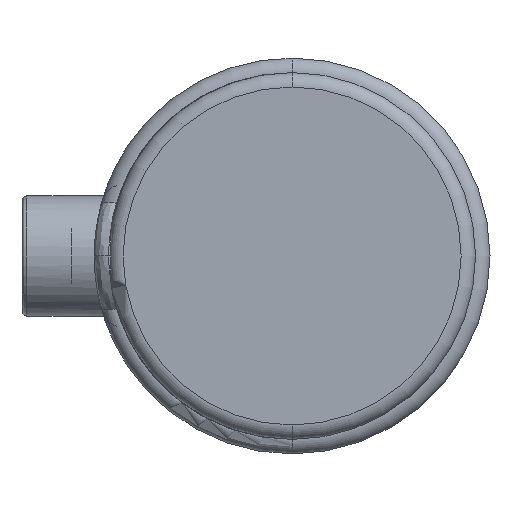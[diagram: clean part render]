
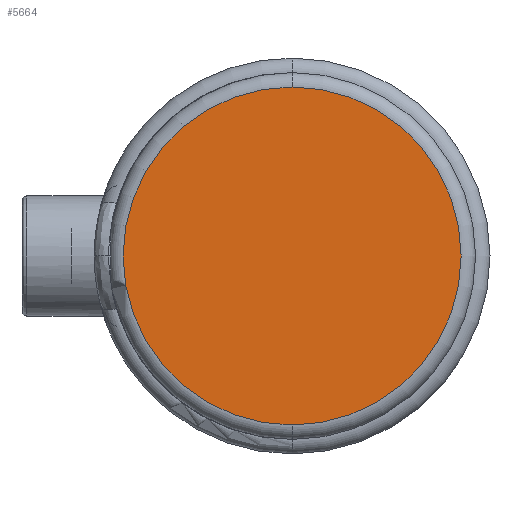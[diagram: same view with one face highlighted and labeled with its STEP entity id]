
A CAD part, left-side view. The second image highlights one B-rep face of the part: STEP entity #5664.
In plain terms, the highlighted planar face has unit normal (-1, 0, 0).
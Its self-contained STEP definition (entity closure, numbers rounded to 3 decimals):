
#100 = CARTESIAN_POINT ( 'NONE',  ( 0., 0., -35.1 ) ) ;
#276 = DIRECTION ( 'NONE',  ( 0., 0., 1. ) ) ;
#335 = CIRCLE ( 'NONE', #5225, 35.1 ) ;
#501 = CARTESIAN_POINT ( 'NONE',  ( 0., 0., 0. ) ) ;
#554 = DIRECTION ( 'NONE',  ( -1., 0., 0. ) ) ;
#676 = CIRCLE ( 'NONE', #1567, 35.1 ) ;
#949 = DIRECTION ( 'NONE',  ( 0., 0., 1. ) ) ;
#1567 = AXIS2_PLACEMENT_3D ( 'NONE', #501, #3620, #949 ) ;
#1904 = ORIENTED_EDGE ( 'NONE', *, *, #2137, .T. ) ;
#1939 = CARTESIAN_POINT ( 'NONE',  ( 0., 0., 35.1 ) ) ;
#2137 = EDGE_CURVE ( 'NONE', #5677, #3583, #676, .T. ) ;
#2946 = DIRECTION ( 'NONE',  ( -1., 0., 0. ) ) ;
#3203 = PLANE ( 'NONE',  #5307 ) ;
#3223 = CARTESIAN_POINT ( 'NONE',  ( 0., 0., 0. ) ) ;
#3249 = FACE_OUTER_BOUND ( 'NONE', #5594, .T. ) ;
#3583 = VERTEX_POINT ( 'NONE', #1939 ) ;
#3620 = DIRECTION ( 'NONE',  ( -1., 0., 0. ) ) ;
#3676 = DIRECTION ( 'NONE',  ( 0., 0., 1. ) ) ;
#4136 = ORIENTED_EDGE ( 'NONE', *, *, #4825, .T. ) ;
#4825 = EDGE_CURVE ( 'NONE', #3583, #5677, #335, .T. ) ;
#5225 = AXIS2_PLACEMENT_3D ( 'NONE', #5628, #2946, #276 ) ;
#5307 = AXIS2_PLACEMENT_3D ( 'NONE', #3223, #554, #3676 ) ;
#5594 = EDGE_LOOP ( 'NONE', ( #4136, #1904 ) ) ;
#5628 = CARTESIAN_POINT ( 'NONE',  ( 0., 0., 0. ) ) ;
#5664 = ADVANCED_FACE ( 'NONE', ( #3249 ), #3203, .T. ) ;
#5677 = VERTEX_POINT ( 'NONE', #100 ) ;
